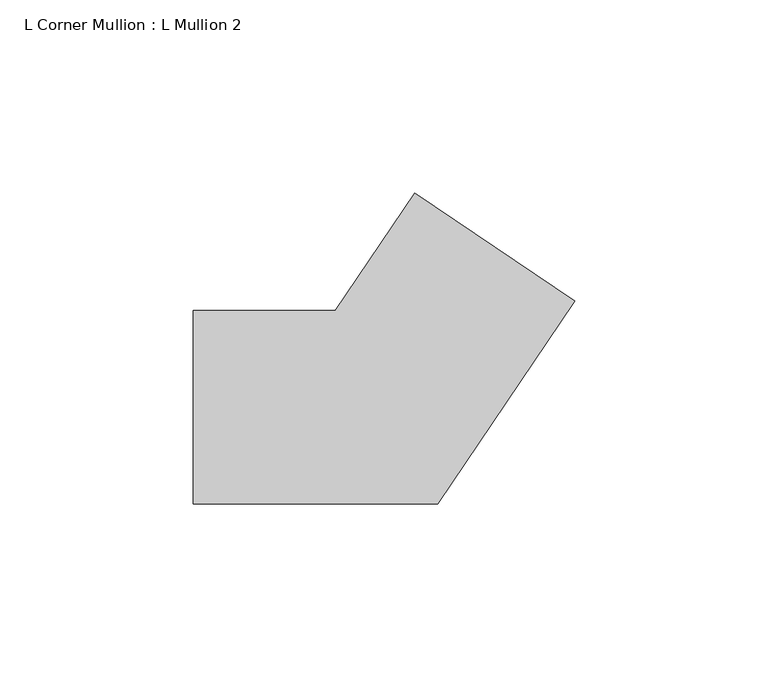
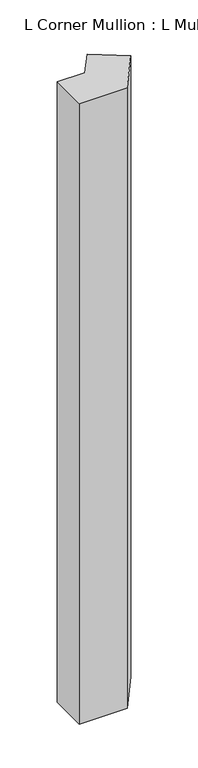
"""IFC4 building model written with IfcOpenShell, lengths in millimetres: member geometry, L Corner Mullion : L Mullion 2."""

from ifc_helpers import new_model, si_unit, frame, origin, place, context, project, spatial, polyline, outline, extrude, source, transform, mapped, element, save


def l_corner_mullion_l_mullion_2_73a79e73(model_context):
    return source(origin(), model_context, "Body", "SweptSolid", [
        extrude(outline(polyline([(48.6855845, 27.472056), (13.2927358, -25.0), (-50.0, -25.0), (-50.0, 25.0), (-13.2927358, 25.0), (7.2337059, 55.4317012), (48.6855845, 27.472056)])), frame((0.0, 0.0, -865.0), z_axis=(0.0, 0.0, 1.0), x_axis=(1.0, 0.0, 0.0)), (0.0, 0.0, 1.0), 865.0),
    ])


if __name__ == "__main__":
    model = new_model("IFC4")
    model_context = context("Model", 3, world=origin())
    ifc_project = project(units=[si_unit("LENGTHUNIT", "METRE", prefix="MILLI")], contexts=[model_context])
    site = spatial("IfcSite", under=ifc_project)
    building = spatial("IfcBuilding", under=site)
    placement = place(None, origin())
    l_corner_mullion_l_mullion_2_shape = l_corner_mullion_l_mullion_2_73a79e73(model_context)
    element("IfcMember", 1, ObjectType="L Corner Mullion : L Mullion 2", at=placement, inside=building, context=model_context, shape_type="MappedRepresentation", body=[
        mapped(l_corner_mullion_l_mullion_2_shape, transform((0.0, 0.0, 0.0), x_axis=(1.0, 0.0, 0.0), y_axis=(0.0, 1.0, 0.0), z_axis=(0.0, 0.0, 1.0))),
    ])
    save(model, "model.ifc")
